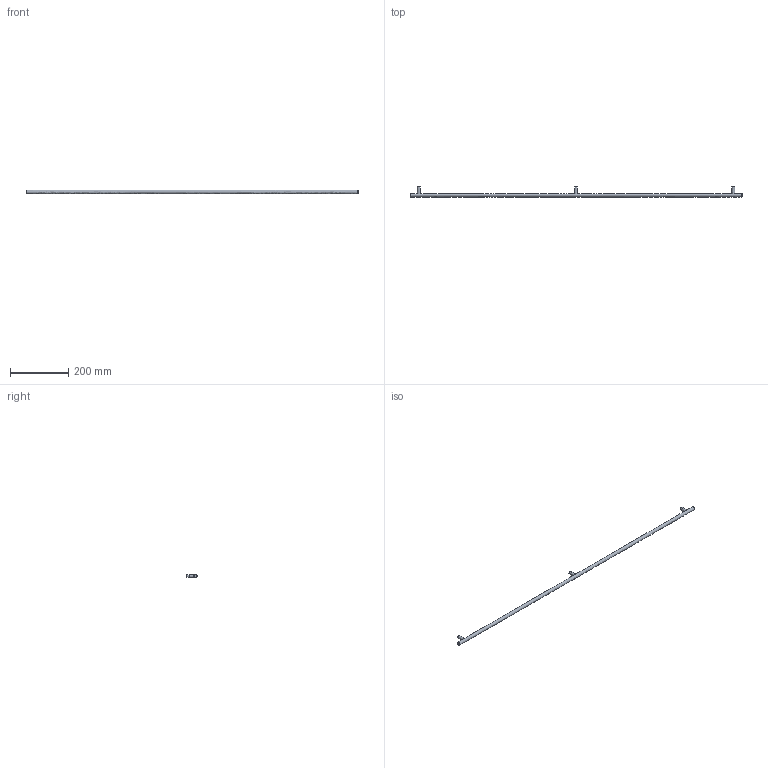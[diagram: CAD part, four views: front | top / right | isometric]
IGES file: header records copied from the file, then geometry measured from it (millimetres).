
Start section: Data from Parasolid IGES Translator 15.0.47, Copyright(c) 2006 Siemens P LM Software. All Rights Reserved.
Global section: file name: 9070751.igs; native system:  By UGS Corp.; preprocessor: XPlus GENERIC/IGES 3.0; author: Noname; organization: Noname; date: 20140123.103945; units: millimetre
Bounding box: 1140 x 35 x 12 mm (x, y, z)
Surface area: 45727.1 mm2 (no closed solid volume)
Topology: 0 solids, 0 shells, 17 faces, 54 edges, 42 vertices
Faces by surface type: revolution 9, extrusion 8
